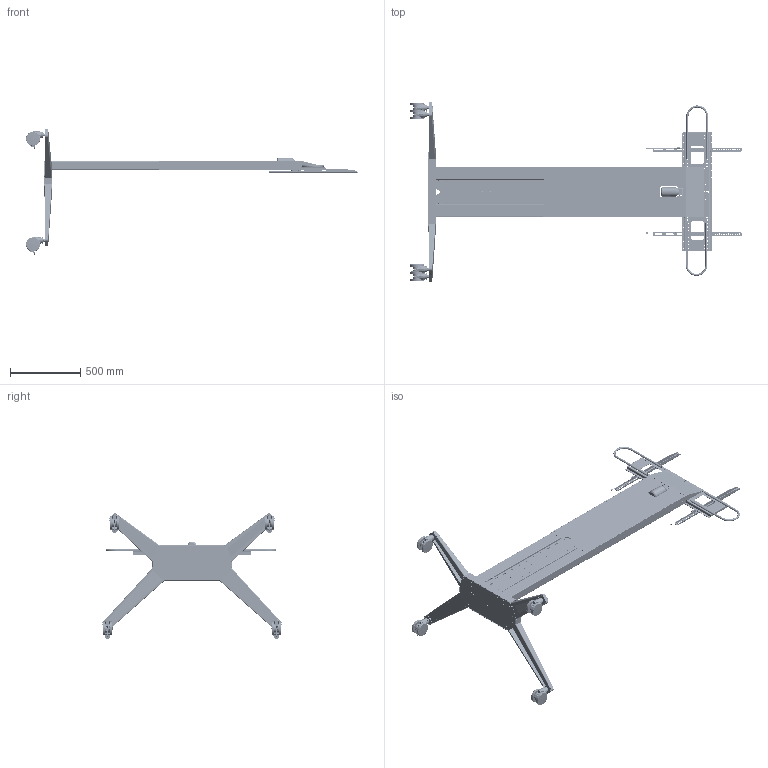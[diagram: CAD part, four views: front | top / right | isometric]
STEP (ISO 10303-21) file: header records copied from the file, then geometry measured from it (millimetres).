
FILE_DESCRIPTION((''),'2;1');
FILE_NAME('F50_FREESTANDING_MAX_ASM_ASM','2022-02-11T13:09:56',('103247'),('捷昌驱动'),'CREO PARAMETRIC BY PTC INC, 2018100','CREO PARAMETRIC BY PTC INC, 2018100','');
FILE_SCHEMA(('CONFIG_CONTROL_DESIGN'));
Products named in the file (100): RR05-304_TOP_BRACKET_42_4; JS36DR-2467_1_1_9_1; JS36DR-1576_1_1_3_1; RR05-251_LEG_TOP1_ASM_1_ASM_1_ASM; JS36DR-0142_1_1_1_1; JS36DR-0141_1_1_1_1; JCSP-0505_1_1_1_1; RR05-251_LEG_TOP2_ASM_1_ASM_1_ASM; RR05-251_LEG_TOP3_ASM_1_ASM_1_ASM; JS36DR-2366_1_1_5_1; JS36DS-0069_1_1_5_1; JS36DS-0070_1_1_4_1; JC35TS-1850_1_1_2_1; JSSY-0115_1_1_1_1; JC35TS-1730_1_1_1_1; JCSP-0731_1_1_3_1; JCSP-0722_1_1_2_1; RR05-251_LEG_TOP4_ASM_27_ASM_1_ASM; RR05-251_LEG_TOP5_ASM_12_ASM_1_ASM; RR05-306_MONITOR_BRACKET_26_15; RR05-204_TOP_CAP_9_9; ASM0001_ASM_2_ASM; RR05-203_REAR_TOP_COVER_16_7; RR05-201_FRONT_TOP_COVER_25_3; NS1_3_6_ASM_1_ASM_1_1_2_3_ASM_2; NS1_3_6_ASM_1_1_ASM_1_ASM_1_A_1_ASM; 0000210278_ASM_1_ASM_1_ASM_1_1__ASM; 0000210276_ASM_1_ASM_1_ASM_1_1__ASM; JCB35NS1-A_ASM_1_ASM_1_1_ASM_1__ASM; JC35TS-1804_1_1_1_8_1; ______17135_1_1_1_1_1_1; ______17135_1_2_1_1_1_1; ______17135_1_3_1_1_1_1; ______17135_1_4_1_1_1_1; ______17135_1_5_1_1_1_1; ______17135_1_ASM_1_1_ASM_1_ASM_ASM; JC35TS-1807_1_ASM_1_1_ASM_1_ASM_ASM; JC35TS-1806_1_1_1_1_1; JC35TS-1805_1_1_1_1_1; JC35TF-0137_1_1_1_2_1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
Assembly tree (167 placements, depth 12):
  F50_FREESTANDING_MAX_ASM_ASM
    F50_FREESTANDING_MAX_ASM_1_ASM
      RR05-150_MAIN_ASM_ASM_103_ASM_1_ASM
        RR05-250_TOP_ASM_ASM_61_ASM_5_ASM
          RR05-251_LEG_TOP5_ASM_12_ASM_1_ASM
            RR05-251_LEG_TOP4_ASM_27_ASM_1_ASM
              RR05-304_TOP_BRACKET_42_4
              RR05-251_LEG_TOP2_ASM_1_ASM_1_ASM
                RR05-251_LEG_TOP1_ASM_1_ASM_1_ASM
                  JS36DR-2467_1_1_9_1
                  JS36DR-1576_1_1_3_1
                JS36DR-0142_1_1_1_1  x2
                JS36DR-0141_1_1_1_1  x2
                JCSP-0505_1_1_1_1  x2
              RR05-251_LEG_TOP3_ASM_1_ASM_1_ASM
                RR05-251_LEG_TOP1_ASM_1_ASM_1_ASM
                  JS36DR-2467_1_1_9_1
                  JS36DR-1576_1_1_3_1
                JCSP-0505_1_1_1_1  x2
                JS36DR-0141_1_1_1_1  x2
                JS36DR-0142_1_1_1_1  x2
              JS36DR-2366_1_1_5_1
              JS36DS-0069_1_1_5_1
              JS36DS-0070_1_1_4_1
              JC35TS-1850_1_1_2_1
              JSSY-0115_1_1_1_1
              JC35TS-1730_1_1_1_1
              JCSP-0731_1_1_3_1
              JCSP-0722_1_1_2_1  x10
          ASM0001_ASM_2_ASM
            RR05-306_MONITOR_BRACKET_26_15
            RR05-204_TOP_CAP_9_9
          RR05-203_REAR_TOP_COVER_16_7
          RR05-201_FRONT_TOP_COVER_25_3
          RR05-300_MONITOR_CHASSIS_ASM_12_ASM
            2_ASM_1_1_ASM_1_ASM_1_ASM
              JC35TS-T215007_ASM_1_ASM_1_1_AS_ASM
                JCB35NS1-A_ASM_1_ASM_1_1_ASM_1__ASM
                  0000210276_ASM_1_ASM_1_ASM_1_1__ASM
                JC35TS-1804_1_1_1_8_1
                JC35TS-T191184_ASM_1_ASM_1_1_AS_ASM  x2
                  JC35TS-1807_1_ASM_1_1_ASM_1_ASM_ASM
                  JC35TS-1806_1_1_1_1_1
                  JC35TS-1805_1_1_1_1_1
                  JC35TF-0137_1_1_1_2_1
                  JCSP-0412_1_1_1_1_1
                  JCSP-0474_1_1_1_1_1
        RR05-252_LEG_BOT_ASM_65_ASM_3_ASM
          RR05-252_LEG_BOT4_ASM_2_ASM_1_ASM
            RR05-252_LEG_BOT3_ASM_1_ASM_1_ASM
              RR05-252_LEG_BOT2_ASM_1_ASM_1_ASM
                RR05-252_LEG_BOT1_ASM_1_ASM_1_ASM
                  JS36DR-2472_AF0_1_1_2_1
                JC35PJ-0476_1_1_1_1  x2
              JC35TS-0166_1_1_2_1
            JS36DR-0304_1_1_1_1
            JCSP-0506_1_1_1_1  x4
          RR05-253_LEG_BOT4_ASM_1_ASM_1_ASM
            RR05-253_LEG_BOT3_ASM_1_ASM_1_ASM
              RR05-253_LEG_BOT2_ASM_1_ASM_1_ASM
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Bounding box: 2360.03 x 1280.42 x 892.92 mm (x, y, z)
Volume: 8551271.6 mm3; surface area: 7854104.6 mm2
Topology: 129 solids, 158 shells, 9044 faces, 25308 edges, 16651 vertices
Faces by surface type: plane 4014, cylinder 3452, bspline 629, cone 445, torus 344, extrusion 116, sphere 44
Entity records: 229606 total; most frequent: CARTESIAN_POINT 92496, ORIENTED_EDGE 28830, DIRECTION 27456, EDGE_CURVE 14460, VERTEX_POINT 9498, AXIS2_PLACEMENT_3D 9426, VECTOR 8604, LINE 8500
